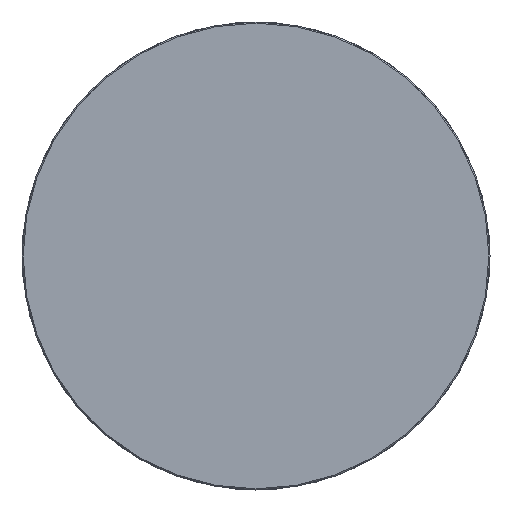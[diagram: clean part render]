
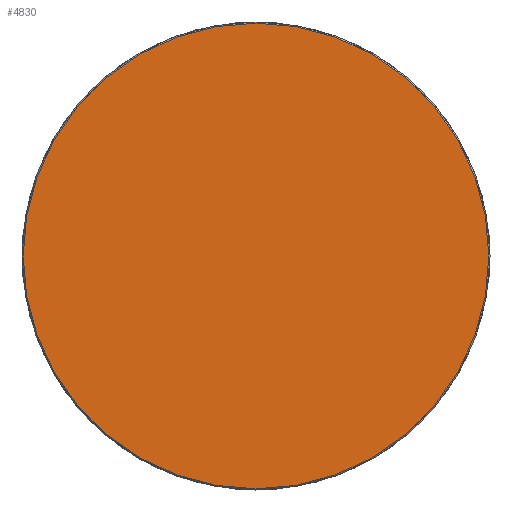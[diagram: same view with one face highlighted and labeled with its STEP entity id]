
A CAD part, left-side view. The second image highlights one B-rep face of the part: STEP entity #4830.
In plain terms, the highlighted planar face has unit normal (-1, 0, 0).
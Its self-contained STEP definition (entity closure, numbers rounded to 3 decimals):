
#996 = DIRECTION ( 'NONE',  ( 0., 0., -1. ) ) ;
#1002 = CARTESIAN_POINT ( 'NONE',  ( 0., 0., 0. ) ) ;
#1004 = DIRECTION ( 'NONE',  ( -1., 0., 0. ) ) ;
#1299 = EDGE_CURVE ( 'NONE', #22302, #23768, #7202, .T. ) ;
#1315 = CARTESIAN_POINT ( 'NONE',  ( 0., 0., 0. ) ) ;
#1317 = DIRECTION ( 'NONE',  ( -1., 0., 0. ) ) ;
#1320 = DIRECTION ( 'NONE',  ( 0., 0., -1. ) ) ;
#1321 = EDGE_CURVE ( 'NONE', #23768, #22302, #7225, .T. ) ;
#4830 = ADVANCED_FACE ( 'NONE', ( #13114 ), #13891, .F. ) ;
#6238 = AXIS2_PLACEMENT_3D ( 'NONE', #1002, #1004, #996 ) ;
#6245 = AXIS2_PLACEMENT_3D ( 'NONE', #1315, #1317, #1320 ) ;
#7202 = CIRCLE ( 'NONE', #6238, 40.3 ) ;
#7225 = CIRCLE ( 'NONE', #6245, 40.3 ) ;
#13114 = FACE_OUTER_BOUND ( 'NONE', #19376, .T. ) ;
#13886 = CARTESIAN_POINT ( 'NONE',  ( 0., 40.5, 0. ) ) ;
#13891 = PLANE ( 'NONE',  #14691 ) ;
#13894 = DIRECTION ( 'NONE',  ( 1., 0., 0. ) ) ;
#13895 = DIRECTION ( 'NONE',  ( 0., 0., -1. ) ) ;
#14423 = CARTESIAN_POINT ( 'NONE',  ( 0., 0., 40.3 ) ) ;
#14691 = AXIS2_PLACEMENT_3D ( 'NONE', #13886, #13894, #13895 ) ;
#15462 = CARTESIAN_POINT ( 'NONE',  ( 0., 0., -40.3 ) ) ;
#19376 = EDGE_LOOP ( 'NONE', ( #28164, #28091 ) ) ;
#22302 = VERTEX_POINT ( 'NONE', #14423 ) ;
#23768 = VERTEX_POINT ( 'NONE', #15462 ) ;
#28091 = ORIENTED_EDGE ( 'NONE', *, *, #1299, .T. ) ;
#28164 = ORIENTED_EDGE ( 'NONE', *, *, #1321, .T. ) ;
